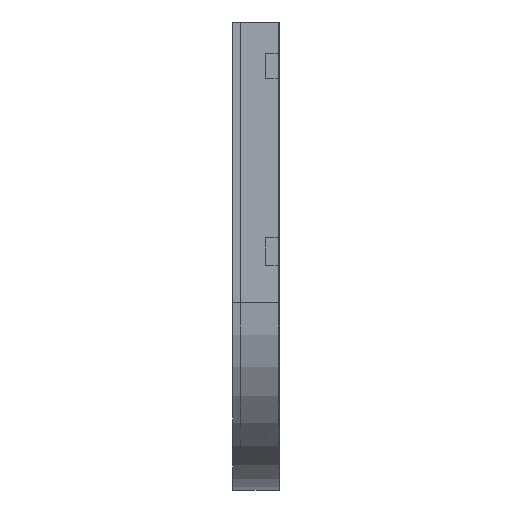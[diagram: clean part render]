
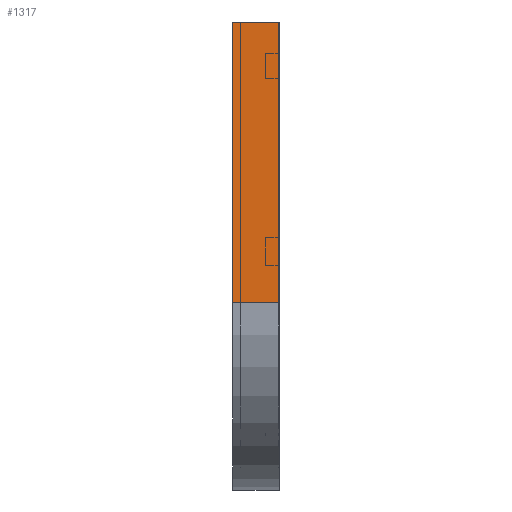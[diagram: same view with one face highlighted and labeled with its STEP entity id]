
A CAD part, left-side view. The second image highlights one B-rep face of the part: STEP entity #1317.
In plain terms, the highlighted planar face has unit normal (-1, 0, 0).
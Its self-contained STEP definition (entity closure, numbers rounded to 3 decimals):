
#89 = EDGE_CURVE ( 'NONE', #1895, #1124, #375, .T. ) ;
#110 = LINE ( 'NONE', #276, #1379 ) ;
#143 = VERTEX_POINT ( 'NONE', #1133 ) ;
#268 = VERTEX_POINT ( 'NONE', #747 ) ;
#276 = CARTESIAN_POINT ( 'NONE',  ( 0., 0., -450. ) ) ;
#281 = LINE ( 'NONE', #1877, #458 ) ;
#320 = EDGE_CURVE ( 'NONE', #268, #143, #110, .T. ) ;
#367 = AXIS2_PLACEMENT_3D ( 'NONE', #1001, #1177, #1952 ) ;
#375 = LINE ( 'NONE', #1975, #504 ) ;
#412 = DIRECTION ( 'NONE',  ( 0., 0., -1. ) ) ;
#417 = CARTESIAN_POINT ( 'NONE',  ( 0., 75., 0. ) ) ;
#458 = VECTOR ( 'NONE', #1553, 1000. ) ;
#501 = VECTOR ( 'NONE', #412, 1000. ) ;
#504 = VECTOR ( 'NONE', #537, 1000. ) ;
#526 = EDGE_LOOP ( 'NONE', ( #1620, #1663, #1734, #1015 ) ) ;
#537 = DIRECTION ( 'NONE',  ( 0., -1., 0. ) ) ;
#561 = LINE ( 'NONE', #841, #501 ) ;
#735 = DIRECTION ( 'NONE',  ( 0., -1., 0. ) ) ;
#747 = CARTESIAN_POINT ( 'NONE',  ( 0., 75., -450. ) ) ;
#817 = FACE_OUTER_BOUND ( 'NONE', #526, .T. ) ;
#841 = CARTESIAN_POINT ( 'NONE',  ( 0., 75., 0. ) ) ;
#852 = CARTESIAN_POINT ( 'NONE',  ( 0., 0., 0. ) ) ;
#1001 = CARTESIAN_POINT ( 'NONE',  ( 0., 0., 0. ) ) ;
#1015 = ORIENTED_EDGE ( 'NONE', *, *, #320, .T. ) ;
#1123 = EDGE_CURVE ( 'NONE', #1895, #268, #561, .T. ) ;
#1124 = VERTEX_POINT ( 'NONE', #852 ) ;
#1133 = CARTESIAN_POINT ( 'NONE',  ( 0., 0., -450. ) ) ;
#1177 = DIRECTION ( 'NONE',  ( 1., 0., 0. ) ) ;
#1317 = ADVANCED_FACE ( 'NONE', ( #817 ), #1322, .F. ) ;
#1322 = PLANE ( 'NONE',  #367 ) ;
#1379 = VECTOR ( 'NONE', #735, 1000. ) ;
#1530 = EDGE_CURVE ( 'NONE', #1124, #143, #281, .T. ) ;
#1553 = DIRECTION ( 'NONE',  ( 0., 0., -1. ) ) ;
#1620 = ORIENTED_EDGE ( 'NONE', *, *, #1530, .F. ) ;
#1663 = ORIENTED_EDGE ( 'NONE', *, *, #89, .F. ) ;
#1734 = ORIENTED_EDGE ( 'NONE', *, *, #1123, .T. ) ;
#1877 = CARTESIAN_POINT ( 'NONE',  ( 0., 0., 0. ) ) ;
#1895 = VERTEX_POINT ( 'NONE', #417 ) ;
#1952 = DIRECTION ( 'NONE',  ( 0., 0., -1. ) ) ;
#1975 = CARTESIAN_POINT ( 'NONE',  ( 0., 0., 0. ) ) ;
